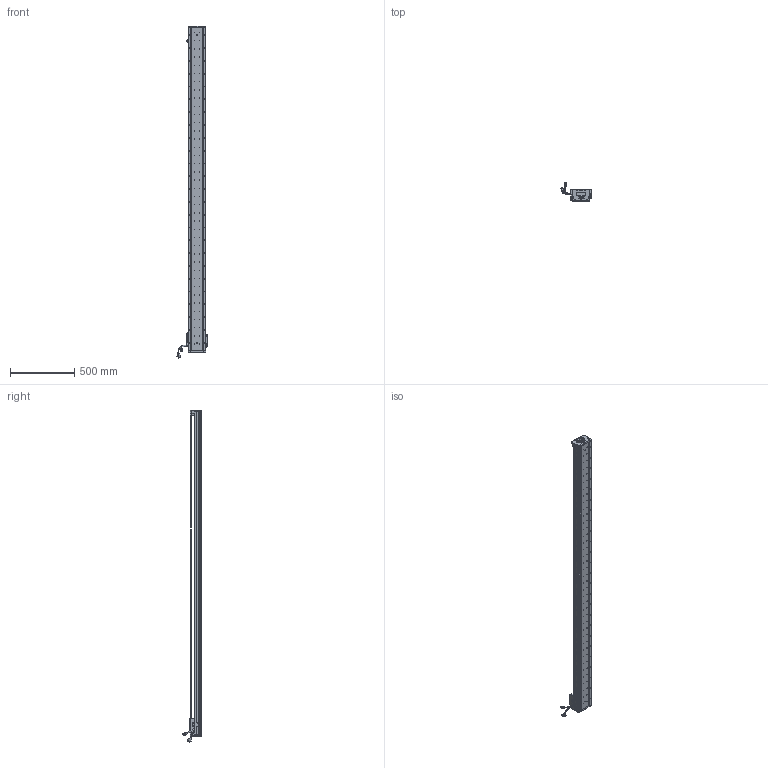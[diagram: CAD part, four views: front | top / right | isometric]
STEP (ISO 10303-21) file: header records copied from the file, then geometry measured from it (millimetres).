
FILE_DESCRIPTION (( 'STEP AP203' ), '1' );
FILE_NAME ('Z1-RY140D-1-L500-B-K.SLDASM_2350.step', '2021-05-17T07:34:54', ( '盈信电脑' ), ( '东莞市道滘镇水果街19号' ), 'SwSTEP 2.0', 'SolidWorks 2016', '' );
FILE_SCHEMA (( 'CONFIG_CONTROL_DESIGN' ));
Length unit declared in the file: millimetre
Products named in the file (36): SHIELDPLATE; SCREW-M1.6-1; PBU_SHEET; 140蚥薯蝶輸; HARNESS-Part-2; 覜茼ん672; LABEL-Part-1; COVER-Part-1; LABEL; PSLH080_PSLF2; HARNESS-Part-1; Z1-RY140圉猾敕臏賑輸(21遴); SEAL; SCALE; SCALE-Part-2; SCREW-M1.6; Z-RY140詩湍狟揤裔; Z-RY140詩湍奻揤裔; Z-RY140感应器672光电感应片; SCREW-M1.7-1; SCREW-M1.6-3; 榋妏寠巭燃_暯_M2_2; 140-Z-臏賑輸盄裔(21遴); SCREW-M1.7; Z1-RY140D-1-L500-B-K.SLDASM_2350; Z1-RY140-L500直线电机模组底座_2350; 080黍杅芛假蚾釱21遴; SEAL-Part-1; Z1-RY140-L500詩湍100mm遵_2350; SCALE-Part-1; 140雄赽晤鎢ん堤盄; SCREW-M1.6-2; HOLDER0; HARNESS; Z-140詩湍傷裔啣; COVER
Assembly tree (41 placements, depth 4):
  Z1-RY140D-1-L500-B-K.SLDASM_2350
    Z1-RY140-L500直线电机模组底座_2350
    Z-RY140感应器672光电感应片
    Z1-RY140圉猾敕臏賑輸(21遴)
    覜茼ん672  x3
    Z1-RY140-L500詩湍100mm遵_2350
    PSLH080_PSLF2
      SCALE
        SCALE-Part-1
        SCALE-Part-2
      HARNESS
        HARNESS-Part-1
        HARNESS-Part-2
      LABEL
        LABEL-Part-1
      COVER
        COVER-Part-1
      SEAL
        SEAL-Part-1
      榋妏寠巭燃_暯_M2_2
      SHIELDPLATE
      SCREW-M1.7
      SCREW-M1.7-1
      PBU_SHEET
      SCREW-M1.6
      SCREW-M1.6-1
      SCREW-M1.6-2
      SCREW-M1.6-3
      HOLDER0
    080黍杅芛假蚾釱21遴
    140-Z-臏賑輸盄裔(21遴)
    Z-140詩湍傷裔啣  x2
    Z-RY140詩湍狟揤裔  x2
    Z-RY140詩湍奻揤裔  x2
    140蚥薯蝶輸  x2
    140雄赽晤鎢ん堤盄
Bounding box: 239.84 x 143.88 x 2590.87 mm (x, y, z)
Volume: 7936437.4 mm3; surface area: 2105258.6 mm2
Topology: 36 solids, 36 shells, 3958 faces, 10776 edges, 6835 vertices
Faces by surface type: cylinder 2126, plane 1344, cone 366, torus 69, bspline 53
Entity records: 125412 total; most frequent: CARTESIAN_POINT 35609, ORIENTED_EDGE 18512, DIRECTION 17060, EDGE_CURVE 9256, AXIS2_PLACEMENT_3D 6318, VERTEX_POINT 6003, VECTOR 4424, LINE 4424
